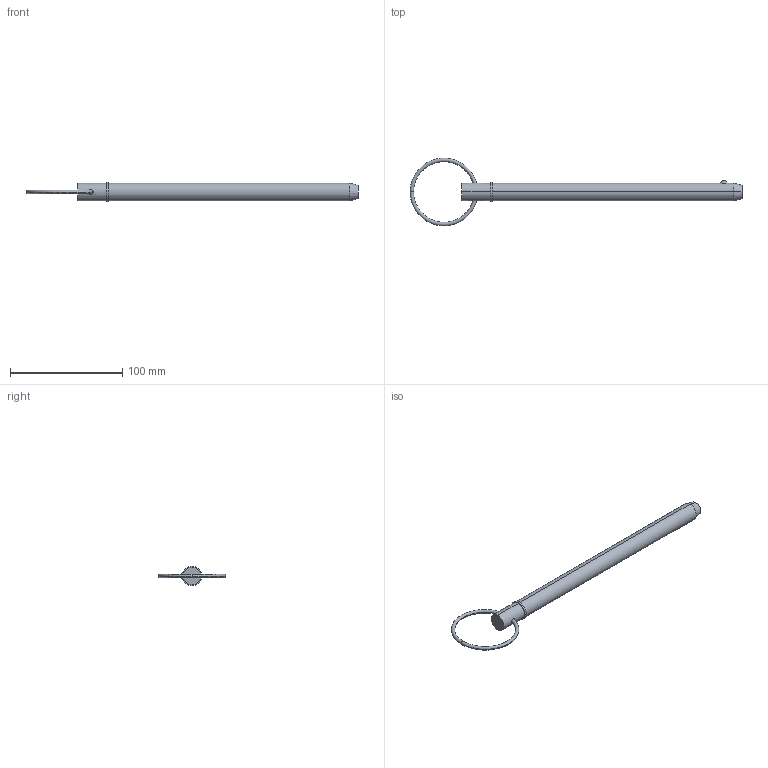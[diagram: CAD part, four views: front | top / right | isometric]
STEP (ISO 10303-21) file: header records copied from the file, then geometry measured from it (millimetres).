
FILE_DESCRIPTION (( 'STEP AP203' ), '1' );
FILE_NAME ('33016.W6280.step', '2024-11-07T11:13:51', ( '' ), ( '' ), 'SwSTEP 2.0', 'SolidWorks 2019', '' );
FILE_SCHEMA (( 'CONFIG_CONTROL_DESIGN' ));
Length unit declared in the file: millimetre
Products named in the file (3): Part1_33016.W6280; 33016.W6280; Part2_33016.W6280
Assembly tree (2 placements, depth 2):
  33016.W6280
    Part1_33016.W6280
    Part2_33016.W6280
Bounding box: 295.58 x 60.33 x 17.47 mm (x, y, z)
Volume: 50417.6 mm3; surface area: 14797 mm2
Topology: 2 solids, 2 shells, 22 faces, 43 edges, 26 vertices
Faces by surface type: torus 8, cylinder 6, plane 4, sphere 2, cone 2
Entity records: 1047 total; most frequent: CARTESIAN_POINT 270, DIRECTION 120, ORIENTED_EDGE 86, AXIS2_PLACEMENT_3D 56, EDGE_CURVE 43, CIRCLE 29, EDGE_LOOP 27, VERTEX_POINT 26
